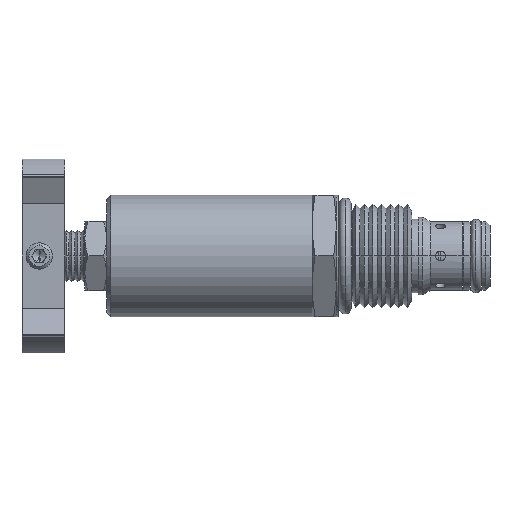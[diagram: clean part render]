
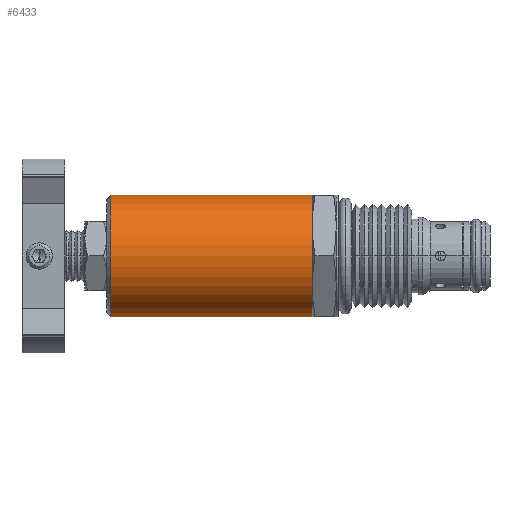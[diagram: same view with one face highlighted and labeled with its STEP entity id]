
A CAD part, front view. The second image highlights one B-rep face of the part: STEP entity #6433.
In plain terms, the highlighted cylindrical face has radius 11.113 mm (diameter 22.225 mm), a partial arc.
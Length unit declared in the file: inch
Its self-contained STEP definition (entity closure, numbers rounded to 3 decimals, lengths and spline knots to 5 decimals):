
#2626=CARTESIAN_POINT('',(-1.642,0.,-0.4375));
#2627=VERTEX_POINT('',#2626);
#2643=CARTESIAN_POINT('',(-1.642,0.,0.4375));
#2644=VERTEX_POINT('',#2643);
#2666=CARTESIAN_POINT('',(-0.187,0.0,-0.4375));
#2667=VERTEX_POINT('',#2666);
#2668=CARTESIAN_POINT('',(-1.642,0.,-0.4375));
#2669=DIRECTION('',(1.0,0.0,0.0));
#2670=VECTOR('',#2669,1.455);
#2671=LINE('',#2668,#2670);
#2672=EDGE_CURVE('',#2627,#2667,#2671,.T.);
#2675=CARTESIAN_POINT('',(-0.187,0.0,0.4375));
#2676=VERTEX_POINT('',#2675);
#2677=CARTESIAN_POINT('',(-0.187,0.0,0.4375));
#2678=DIRECTION('',(-1.0,0.0,0.0));
#2679=VECTOR('',#2678,1.455);
#2680=LINE('',#2677,#2679);
#2681=EDGE_CURVE('',#2676,#2644,#2680,.T.);
#6123=CARTESIAN_POINT('',(-0.187,-0.37889,0.21875));
#6124=VERTEX_POINT('',#6123);
#6151=CARTESIAN_POINT('',(-0.187,0.0,0.));
#6152=DIRECTION('',(1.0,0.0,0.0));
#6153=DIRECTION('',(0.0,0.0,-1.0));
#6154=AXIS2_PLACEMENT_3D('',#6151,#6152,#6153);
#6155=CIRCLE('',#6154,0.4375);
#6156=EDGE_CURVE('',#2676,#6124,#6155,.T.);
#6181=CARTESIAN_POINT('',(-0.187,-0.37889,-0.21875));
#6182=VERTEX_POINT('',#6181);
#6183=CARTESIAN_POINT('',(-0.187,0.0,0.));
#6184=DIRECTION('',(1.0,0.0,0.0));
#6185=DIRECTION('',(0.0,0.0,-1.0));
#6186=AXIS2_PLACEMENT_3D('',#6183,#6184,#6185);
#6187=CIRCLE('',#6186,0.4375);
#6188=EDGE_CURVE('',#6124,#6182,#6187,.T.);
#6226=CARTESIAN_POINT('',(-0.187,0.0,0.));
#6227=DIRECTION('',(1.0,0.0,0.0));
#6228=DIRECTION('',(0.0,0.0,-1.0));
#6229=AXIS2_PLACEMENT_3D('',#6226,#6227,#6228);
#6230=CIRCLE('',#6229,0.4375);
#6231=EDGE_CURVE('',#6182,#2667,#6230,.T.);
#6414=CARTESIAN_POINT('',(-0.9145,0.0,0.));
#6415=DIRECTION('',(1.0,0.,0.));
#6416=DIRECTION('',(0.0,0.0,-1.0));
#6417=AXIS2_PLACEMENT_3D('',#6414,#6415,#6416);
#6418=CYLINDRICAL_SURFACE('',#6417,0.4375);
#6419=ORIENTED_EDGE('',*,*,#2672,.T.);
#6420=ORIENTED_EDGE('',*,*,#6231,.F.);
#6421=ORIENTED_EDGE('',*,*,#6188,.F.);
#6422=ORIENTED_EDGE('',*,*,#6156,.F.);
#6423=ORIENTED_EDGE('',*,*,#2681,.T.);
#6424=CARTESIAN_POINT('',(-1.642,0.,0.));
#6425=DIRECTION('',(1.0,0.0,0.0));
#6426=DIRECTION('',(0.0,0.0,-1.0));
#6427=AXIS2_PLACEMENT_3D('',#6424,#6425,#6426);
#6428=CIRCLE('',#6427,0.4375);
#6429=EDGE_CURVE('',#2644,#2627,#6428,.T.);
#6430=ORIENTED_EDGE('',*,*,#6429,.T.);
#6431=EDGE_LOOP('',(#6419,#6420,#6421,#6422,#6423,#6430));
#6432=FACE_OUTER_BOUND('',#6431,.T.);
#6433=ADVANCED_FACE('',(#6432),#6418,.T.);
